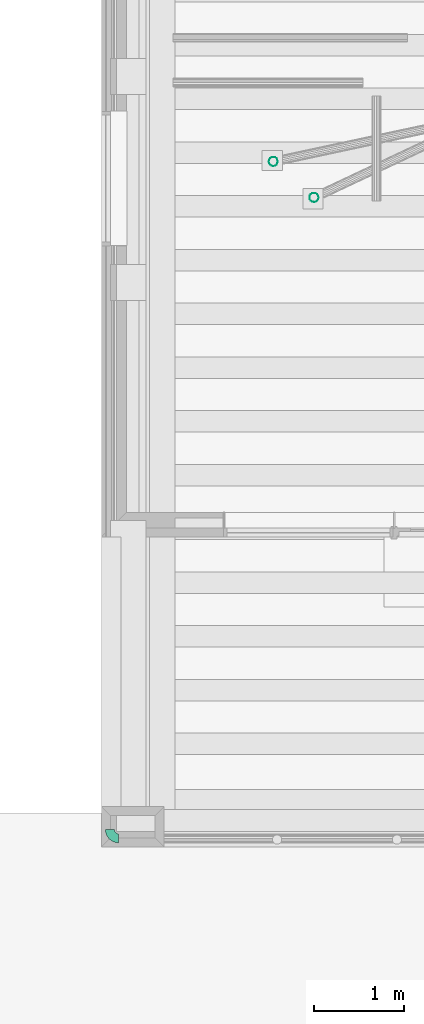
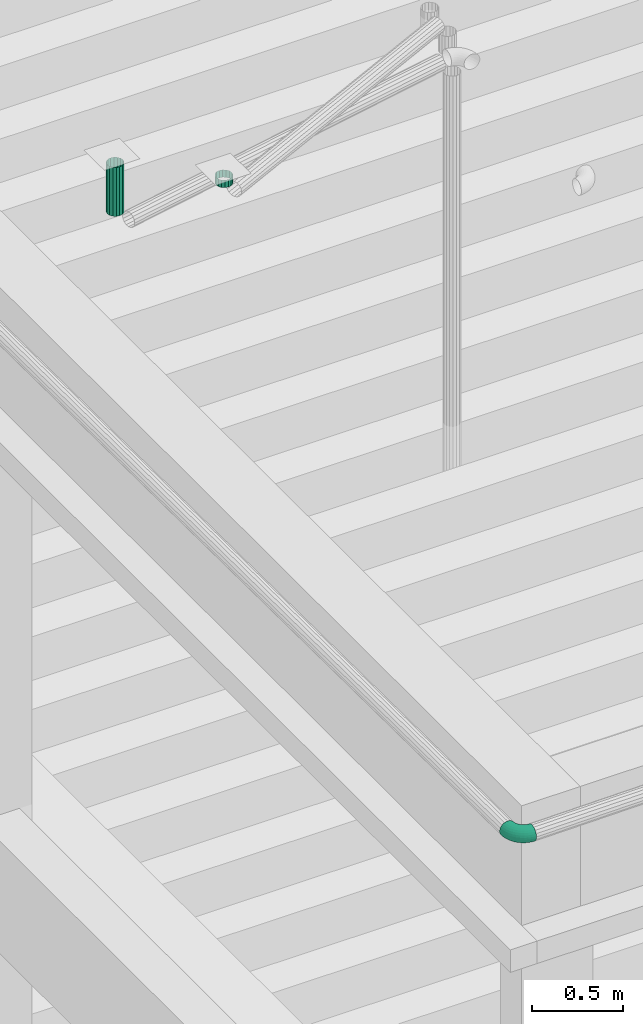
# One storey, part 70 of 106: 2 flow segments, 1 flow fitting.
"""IFC2X3 building model written with IfcOpenShell, lengths in metres."""

from ifc_helpers import new_model, entity, si_unit, converted_unit, derived_unit, money_unit, direction, frame, origin_with_axes, place, context, subcontext, project, spatial, open_shell, faceted_brep, surface_model, material, type_object, element, save


model = new_model("IFC2X3")

# Units and contexts
model_context = context("Model", 3, precision=1e-05, world=origin_with_axes(), true_north=direction((0.0, 1.0)))
body_context = subcontext(model_context, "Body", "Model", "MODEL_VIEW", scale=1.0)
ifc_project = project(units=[si_unit("LENGTHUNIT", "METRE"), si_unit("AREAUNIT", "SQUARE_METRE"), si_unit("VOLUMEUNIT", "CUBIC_METRE"), si_unit("ABSORBEDDOSEUNIT", "GRAY"), si_unit("AMOUNTOFSUBSTANCEUNIT", "MOLE"), si_unit("DOSEEQUIVALENTUNIT", "SIEVERT"), si_unit("ELECTRICCAPACITANCEUNIT", "FARAD"), si_unit("ELECTRICCHARGEUNIT", "COULOMB"), si_unit("ELECTRICCONDUCTANCEUNIT", "SIEMENS"), si_unit("ELECTRICCURRENTUNIT", "AMPERE"), si_unit("ELECTRICRESISTANCEUNIT", "OHM"), si_unit("ELECTRICVOLTAGEUNIT", "VOLT"), si_unit("ENERGYUNIT", "JOULE"), si_unit("FORCEUNIT", "NEWTON"), si_unit("FREQUENCYUNIT", "HERTZ"), si_unit("ILLUMINANCEUNIT", "LUX"), si_unit("INDUCTANCEUNIT", "HENRY"), si_unit("LUMINOUSFLUXUNIT", "LUMEN"), si_unit("LUMINOUSINTENSITYUNIT", "CANDELA"), si_unit("MAGNETICFLUXDENSITYUNIT", "TESLA"), si_unit("MAGNETICFLUXUNIT", "WEBER"), si_unit("MASSUNIT", "GRAM"), converted_unit("PLANEANGLEUNIT", "degree", entity("IfcReal", 0.0174532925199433), si_unit("PLANEANGLEUNIT", "RADIAN"), dimensions=[0, 0, 0, 0, 0, 0, 0]), si_unit("POWERUNIT", "WATT"), si_unit("PRESSUREUNIT", "PASCAL"), si_unit("RADIOACTIVITYUNIT", "BECQUEREL"), si_unit("SOLIDANGLEUNIT", "STERADIAN"), si_unit("THERMODYNAMICTEMPERATUREUNIT", "KELVIN"), si_unit("TIMEUNIT", "SECOND"), derived_unit("ACCELERATIONUNIT", [(si_unit("LENGTHUNIT", "METRE"), 1), (si_unit("TIMEUNIT", "SECOND"), -2)]), derived_unit("ANGULARVELOCITYUNIT", [(converted_unit("PLANEANGLEUNIT", "degree", entity("IfcReal", 0.0174532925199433), si_unit("PLANEANGLEUNIT", "RADIAN"), dimensions=[0, 0, 0, 0, 0, 0, 0]), 1), (si_unit("TIMEUNIT", "SECOND"), -1)]), derived_unit("CURVATUREUNIT", [(converted_unit("PLANEANGLEUNIT", "degree", entity("IfcReal", 0.0174532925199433), si_unit("PLANEANGLEUNIT", "RADIAN"), dimensions=[0, 0, 0, 0, 0, 0, 0]), 1), (si_unit("LENGTHUNIT", "METRE"), -1)]), derived_unit("DYNAMICVISCOSITYUNIT", [(si_unit("PRESSUREUNIT", "PASCAL"), 1), (si_unit("TIMEUNIT", "SECOND"), 1)]), derived_unit("HEATFLUXDENSITYUNIT", [(si_unit("POWERUNIT", "WATT"), 1), (si_unit("LENGTHUNIT", "METRE"), -2)]), derived_unit("HEATINGVALUEUNIT", [(si_unit("ENERGYUNIT", "JOULE"), 1), (si_unit("MASSUNIT", "GRAM"), -1)]), derived_unit("INTEGERCOUNTRATEUNIT", [(si_unit("TIMEUNIT", "SECOND"), -1)]), derived_unit("IONCONCENTRATIONUNIT", [(si_unit("MASSUNIT", "GRAM"), 1), (si_unit("VOLUMEUNIT", "CUBIC_METRE"), -1)]), derived_unit("ISOTHERMALMOISTURECAPACITYUNIT", [(si_unit("VOLUMEUNIT", "CUBIC_METRE"), 1), (si_unit("MASSUNIT", "GRAM"), -1)]), derived_unit("KINEMATICVISCOSITYUNIT", [(si_unit("AREAUNIT", "SQUARE_METRE"), 1), (si_unit("TIMEUNIT", "SECOND"), -1)]), derived_unit("LINEARFORCEUNIT", [(si_unit("FORCEUNIT", "NEWTON"), 1), (si_unit("LENGTHUNIT", "METRE"), -1)]), derived_unit("LINEARMOMENTUNIT", [(si_unit("FORCEUNIT", "NEWTON"), 1), (si_unit("LENGTHUNIT", "METRE"), -1)]), derived_unit("LINEARSTIFFNESSUNIT", [(si_unit("FORCEUNIT", "NEWTON"), 1), (si_unit("LENGTHUNIT", "METRE"), -1)]), derived_unit("LINEARVELOCITYUNIT", [(si_unit("LENGTHUNIT", "METRE"), 1), (si_unit("TIMEUNIT", "SECOND"), -1)]), derived_unit("LUMINOUSINTENSITYDISTRIBUTIONUNIT", [(si_unit("LUMINOUSINTENSITYUNIT", "CANDELA"), 1), (si_unit("LUMINOUSFLUXUNIT", "LUMEN"), -1)]), derived_unit("MASSDENSITYUNIT", [(si_unit("MASSUNIT", "GRAM"), 1), (si_unit("VOLUMEUNIT", "CUBIC_METRE"), -1)]), derived_unit("MASSFLOWRATEUNIT", [(si_unit("MASSUNIT", "GRAM"), 1), (si_unit("TIMEUNIT", "SECOND"), -1)]), derived_unit("MASSPERLENGTHUNIT", [(si_unit("MASSUNIT", "GRAM"), 1), (si_unit("LENGTHUNIT", "METRE"), -1)]), derived_unit("MODULUSOFELASTICITYUNIT", [(si_unit("FORCEUNIT", "NEWTON"), 1), (si_unit("AREAUNIT", "SQUARE_METRE"), -1)]), derived_unit("MODULUSOFLINEARSUBGRADEREACTIONUNIT", [(si_unit("FORCEUNIT", "NEWTON"), 1), (si_unit("LENGTHUNIT", "METRE"), -2)]), derived_unit("MODULUSOFROTATIONALSUBGRADEREACTIONUNIT", [(si_unit("FORCEUNIT", "NEWTON"), 1), (si_unit("LENGTHUNIT", "METRE"), 1)]), derived_unit("MODULUSOFSUBGRADEREACTIONUNIT", [(si_unit("FORCEUNIT", "NEWTON"), 1), (si_unit("VOLUMEUNIT", "CUBIC_METRE"), -1)]), derived_unit("MOISTUREDIFFUSIVITYUNIT", [(si_unit("VOLUMEUNIT", "CUBIC_METRE"), 1), (si_unit("TIMEUNIT", "SECOND"), -1)]), derived_unit("MOLECULARWEIGHTUNIT", [(si_unit("MASSUNIT", "GRAM"), 1), (si_unit("AMOUNTOFSUBSTANCEUNIT", "MOLE"), -1)]), derived_unit("PLANARFORCEUNIT", [(si_unit("FORCEUNIT", "NEWTON"), 1), (si_unit("LENGTHUNIT", "METRE"), -2)]), derived_unit("ROTATIONALFREQUENCYUNIT", [(si_unit("TIMEUNIT", "SECOND"), -1)]), derived_unit("ROTATIONALMASSUNIT", [(si_unit("MASSUNIT", "GRAM"), 1), (si_unit("LENGTHUNIT", "METRE"), 2)]), derived_unit("ROTATIONALSTIFFNESSUNIT", [(si_unit("FORCEUNIT", "NEWTON"), 1), (si_unit("LENGTHUNIT", "METRE"), 1), (converted_unit("PLANEANGLEUNIT", "degree", entity("IfcReal", 0.0174532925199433), si_unit("PLANEANGLEUNIT", "RADIAN"), dimensions=[0, 0, 0, 0, 0, 0, 0]), -1)]), derived_unit("SECTIONAREAINTEGRALUNIT", [(si_unit("LENGTHUNIT", "METRE"), 5)]), derived_unit("SECTIONMODULUSUNIT", [(si_unit("LENGTHUNIT", "METRE"), 3)]), derived_unit("SHEARMODULUSUNIT", [(si_unit("FORCEUNIT", "NEWTON"), 1), (si_unit("AREAUNIT", "SQUARE_METRE"), -1)]), derived_unit("SOUNDPOWERUNIT", [(si_unit("ENERGYUNIT", "JOULE"), 1), (si_unit("TIMEUNIT", "SECOND"), -1)]), derived_unit("SPECIFICHEATCAPACITYUNIT", [(si_unit("FORCEUNIT", "NEWTON"), 1), (si_unit("MASSUNIT", "GRAM"), -1), (si_unit("THERMODYNAMICTEMPERATUREUNIT", "KELVIN"), -1)]), derived_unit("TEMPERATUREGRADIENTUNIT", [(si_unit("THERMODYNAMICTEMPERATUREUNIT", "KELVIN"), 1), (si_unit("LENGTHUNIT", "METRE"), -1)]), derived_unit("THERMALADMITTANCEUNIT", [(si_unit("POWERUNIT", "WATT"), 1), (si_unit("AREAUNIT", "SQUARE_METRE"), -1), (si_unit("THERMODYNAMICTEMPERATUREUNIT", "KELVIN"), -1)]), derived_unit("THERMALCONDUCTANCEUNIT", [(si_unit("POWERUNIT", "WATT"), 1), (si_unit("LENGTHUNIT", "METRE"), -1), (si_unit("THERMODYNAMICTEMPERATUREUNIT", "KELVIN"), -1)]), derived_unit("THERMALEXPANSIONCOEFFICIENTUNIT", [(si_unit("THERMODYNAMICTEMPERATUREUNIT", "KELVIN"), -1)]), derived_unit("THERMALRESISTANCEUNIT", [(si_unit("AREAUNIT", "SQUARE_METRE"), 1), (si_unit("POWERUNIT", "WATT"), -1)]), derived_unit("THERMALTRANSMITTANCEUNIT", [(si_unit("POWERUNIT", "WATT"), 1), (si_unit("AREAUNIT", "SQUARE_METRE"), -1), (si_unit("THERMODYNAMICTEMPERATUREUNIT", "KELVIN"), -1)]), derived_unit("TORQUEUNIT", [(si_unit("FORCEUNIT", "NEWTON"), 1), (si_unit("LENGTHUNIT", "METRE"), 1)]), derived_unit("VAPORPERMEABILITYUNIT", [(si_unit("MASSUNIT", "GRAM"), 1), (si_unit("TIMEUNIT", "SECOND"), -1)]), derived_unit("VOLUMETRICFLOWRATEUNIT", [(si_unit("VOLUMEUNIT", "CUBIC_METRE"), 1), (si_unit("TIMEUNIT", "SECOND"), -1)]), derived_unit("WARPINGCONSTANTUNIT", [(si_unit("LENGTHUNIT", "METRE"), 6)]), derived_unit("WARPINGMOMENTUNIT", [(si_unit("FORCEUNIT", "NEWTON"), 1), (si_unit("LENGTHUNIT", "METRE"), 2)]), money_unit("GBP")], contexts=[model_context])

# Site, building, storey
site_placement = place(None, origin_with_axes())
site = spatial("IfcSite", under=ifc_project, at=site_placement, Name="Site", CompositionType="ELEMENT")
building_placement = place(site_placement, origin_with_axes())
building = spatial("IfcBuilding", under=site, at=building_placement, Name="Building01", CompositionType="ELEMENT")
storey_placement = place(building_placement, origin_with_axes())
storey = spatial("IfcBuildingStorey", under=building, at=storey_placement, Name="GF", CompositionType="ELEMENT", Elevation=0.0)

# Flow segments
ifc_material = material(Name="M_BSUK_ColdWater")
pipe_segment_type = type_object("IfcPipeSegmentType", Name="M-BmpStraightpipe-DefaultPipe", PredefinedType="RIGIDSEGMENT")
flow_segment_1_placement = place(storey_placement, frame((2.375111, 7.248528, 14.930087), z_axis=(1.0, 0.0, 0.0), x_axis=(0.0, 0.0, -1.0)))
element("IfcFlowSegment", 1, at=flow_segment_1_placement, inside=storey, type_object=pipe_segment_type, material=ifc_material, Name="M-BmpStraightpipe-DefaultPipe", ObjectType="M-BmpStraightpipe-DefaultPipe", context=body_context, shape_type="Brep", body=[
    faceted_brep([(0.05, 0.0, -0.05), (0.0, 0.0, -0.05), (0.0, 0.019134, -0.046194), (0.05, 0.019134, -0.046194), (0.0, 0.035355, -0.035355), (0.05, 0.035355, -0.035355), (0.0, 0.046194, -0.019134), (0.05, 0.046194, -0.019134), (0.0, 0.05, 0.0), (0.05, 0.05, 0.0), (0.0, 0.046194, 0.019134), (0.05, 0.046194, 0.019134), (0.0, 0.035355, 0.035355), (0.05, 0.035355, 0.035355), (0.0, 0.019134, 0.046194), (0.05, 0.019134, 0.046194), (0.0, 0.0, 0.05), (0.05, 0.0, 0.05), (0.0, -0.019134, 0.046194), (0.05, -0.019134, 0.046194), (0.0, -0.035355, 0.035355), (0.05, -0.035355, 0.035355), (0.0, -0.046194, 0.019134), (0.05, -0.046194, 0.019134), (0.0, -0.05, 0.0), (0.05, -0.05, 0.0), (0.0, -0.046194, -0.019134), (0.05, -0.046194, -0.019134), (0.0, -0.035355, -0.035355), (0.05, -0.035355, -0.035355), (0.0, -0.019134, -0.046194), (0.05, -0.019134, -0.046194)], [[[0, 1, 2, 3]], [[3, 2, 4, 5]], [[5, 4, 6, 7]], [[7, 6, 8, 9]], [[9, 8, 10, 11]], [[11, 10, 12, 13]], [[13, 12, 14, 15]], [[15, 14, 16, 17]], [[17, 16, 18, 19]], [[19, 18, 20, 21]], [[21, 20, 22, 23]], [[23, 22, 24, 25]], [[25, 24, 26, 27]], [[27, 26, 28, 29]], [[29, 28, 30, 31]], [[31, 30, 1, 0]]]),
])
flow_segment_2_placement = place(storey_placement, frame((1.92, 7.65, 14.93), z_axis=(1.0, 0.0, 0.0), x_axis=(0.0, 0.0, -1.0)))
element("IfcFlowSegment", 2, at=flow_segment_2_placement, inside=storey, type_object=pipe_segment_type, material=ifc_material, Name="M-BmpStraightpipe-DefaultPipe", ObjectType="M-BmpStraightpipe-DefaultPipe", context=body_context, shape_type="Brep", body=[
    faceted_brep([(0.326115, 0.0, -0.05), (0.0, 0.0, -0.05), (0.0, 0.019134, -0.046194), (0.326115, 0.019134, -0.046194), (0.0, 0.035355, -0.035355), (0.326115, 0.035355, -0.035355), (0.0, 0.046194, -0.019134), (0.326115, 0.046194, -0.019134), (0.0, 0.05, 0.0), (0.326115, 0.05, 0.0), (0.0, 0.046194, 0.019134), (0.326115, 0.046194, 0.019134), (0.0, 0.035355, 0.035355), (0.326115, 0.035355, 0.035355), (0.0, 0.019134, 0.046194), (0.326115, 0.019134, 0.046194), (0.0, 0.0, 0.05), (0.326115, 0.0, 0.05), (0.0, -0.019134, 0.046194), (0.326115, -0.019134, 0.046194), (0.0, -0.035355, 0.035355), (0.326115, -0.035355, 0.035355), (0.0, -0.046194, 0.019134), (0.326115, -0.046194, 0.019134), (0.0, -0.05, 0.0), (0.326115, -0.05, 0.0), (0.0, -0.046194, -0.019134), (0.326115, -0.046194, -0.019134), (0.0, -0.035355, -0.035355), (0.326115, -0.035355, -0.035355), (0.0, -0.019134, -0.046194), (0.326115, -0.019134, -0.046194)], [[[0, 1, 2, 3]], [[3, 2, 4, 5]], [[5, 4, 6, 7]], [[7, 6, 8, 9]], [[9, 8, 10, 11]], [[11, 10, 12, 13]], [[13, 12, 14, 15]], [[15, 14, 16, 17]], [[17, 16, 18, 19]], [[19, 18, 20, 21]], [[21, 20, 22, 23]], [[23, 22, 24, 25]], [[25, 24, 26, 27]], [[27, 26, 28, 29]], [[29, 28, 30, 31]], [[31, 30, 1, 0]]]),
])

# Flow fitting
pipe_fitting_type = type_object("IfcPipeFittingType", Name="M-BmpElbow-DefaultElbow", PredefinedType="BEND")
flow_fitting_placement = place(storey_placement, frame((0.095, 0.19497, 15.640002), z_axis=(-1.0, 0.0, 0.0), x_axis=(0.0, -1.0, 0.0)))
element("IfcFlowFitting", 3, at=flow_fitting_placement, inside=storey, type_object=pipe_fitting_type, material=ifc_material, Name="M-BmpElbow-DefaultElbow", ObjectType="M-BmpElbow-DefaultElbow", context=body_context, shape_type="SurfaceModel", body=[
    surface_model("IfcShellBasedSurfaceModel", [(0.008009, -0.01349, -0.048768), (0.0, -0.01349, -0.048146), (0.0, 0.0, -0.05), (0.007723, 0.0, -0.0506), (0.015826, -0.01349, -0.05062), (0.015261, 0.0, -0.052386), (0.023264, -0.01349, -0.053657), (0.022432, 0.0, -0.055314), (0.030143, -0.01349, -0.057807), (0.029065, 0.0, -0.059315), (0.036298, -0.01349, -0.062969), (0.035, 0.0, -0.064293), (0.041582, -0.01349, -0.06902), (0.040095, 0.0, -0.070127), (0.045868, -0.01349, -0.075814), (0.044228, 0.0, -0.076679), (0.049054, -0.01349, -0.083189), (0.0473, 0.0, -0.08379), (0.051061, -0.01349, -0.090968), (0.049236, 0.0, -0.091291), (0.051844, -0.01349, -0.098963), (0.04999, 0.0, -0.099), (0.008847, -0.025979, -0.043408), (0.0, -0.025979, -0.042721), (0.017482, -0.025979, -0.045454), (0.025697, -0.025979, -0.048809), (0.033296, -0.025979, -0.053392), (0.040095, -0.025979, -0.059095), (0.045932, -0.025979, -0.065779), (0.050667, -0.025979, -0.073284), (0.054185, -0.025979, -0.081431), (0.056403, -0.025979, -0.090023), (0.057268, -0.025979, -0.098855), (0.010175, -0.036542, -0.034918), (0.0, -0.036542, -0.034128), (0.020105, -0.036542, -0.037271), (0.029553, -0.036542, -0.041129), (0.038291, -0.036542, -0.0464), (0.046111, -0.036542, -0.052958), (0.052823, -0.036542, -0.060645), (0.058268, -0.036542, -0.069276), (0.062315, -0.036542, -0.078645), (0.064865, -0.036542, -0.088526), (0.065859, -0.036542, -0.098683), (0.011893, -0.044394, -0.023927), (0.0, -0.044394, -0.023003), (0.0235, -0.044394, -0.026677), (0.034544, -0.044394, -0.031187), (0.044758, -0.044394, -0.037348), (0.053898, -0.044394, -0.045013), (0.061744, -0.044394, -0.053998), (0.068109, -0.044394, -0.064087), (0.072838, -0.044394, -0.075038), (0.07582, -0.044394, -0.086588), (0.076981, -0.044394, -0.09846), (0.013875, -0.048954, -0.011251), (0.0, -0.048954, -0.010173), (0.027416, -0.048954, -0.014459), (0.0403, -0.048954, -0.01972), (0.052216, -0.048954, -0.026908), (0.062879, -0.048954, -0.035851), (0.072033, -0.048954, -0.046333), (0.079458, -0.048954, -0.058103), (0.084976, -0.048954, -0.070879), (0.088454, -0.048954, -0.084353), (0.089809, -0.048954, -0.098204), (0.015973, -0.049883, 0.002171), (0.0, -0.049883, 0.003412), (0.031562, -0.049883, -0.001522), (0.046394, -0.049883, -0.007579), (0.060113, -0.049883, -0.015854), (0.072389, -0.049883, -0.026149), (0.082927, -0.049883, -0.038216), (0.091475, -0.049883, -0.051767), (0.097827, -0.049883, -0.066475), (0.101831, -0.049883, -0.081987), (0.103391, -0.049883, -0.097932), (0.018032, -0.047113, 0.015343), (0.0, -0.047113, 0.016744), (0.035632, -0.047113, 0.011174), (0.052376, -0.047113, 0.004336), (0.067863, -0.047113, -0.005006), (0.081721, -0.047113, -0.016628), (0.093618, -0.047113, -0.030251), (0.103268, -0.047113, -0.045548), (0.110439, -0.047113, -0.062153), (0.114959, -0.047113, -0.079665), (0.116721, -0.047113, -0.097665), (0.0199, -0.040848, 0.027288), (0.0, -0.040848, 0.028834), (0.039322, -0.040848, 0.022687), (0.0578, -0.040848, 0.015141), (0.074891, -0.040848, 0.004831), (0.090184, -0.040848, -0.007994), (0.103313, -0.040848, -0.023028), (0.113962, -0.040848, -0.039909), (0.121876, -0.040848, -0.058233), (0.126865, -0.040848, -0.077559), (0.128808, -0.040848, -0.097424), (0.021437, -0.031554, 0.03712), (0.0, -0.031554, 0.038786), (0.042359, -0.031554, 0.032163), (0.062264, -0.031554, 0.024035), (0.080675, -0.031554, 0.012929), (0.09715, -0.031554, -0.000887), (0.111293, -0.031554, -0.017083), (0.122765, -0.031554, -0.035268), (0.13129, -0.031554, -0.055007), (0.136664, -0.031554, -0.075826), (0.138758, -0.031554, -0.097225), (0.022529, -0.01992, 0.04411), (0.0, -0.01992, 0.045861), (0.044518, -0.01992, 0.038901), (0.065438, -0.01992, 0.030358), (0.084788, -0.01992, 0.018686), (0.102103, -0.01992, 0.004165), (0.116966, -0.01992, -0.012856), (0.129023, -0.01992, -0.031968), (0.137983, -0.01992, -0.052713), (0.143631, -0.01992, -0.074593), (0.145831, -0.01992, -0.097083), (0.023097, -0.006808, 0.04774), (0.0, -0.006808, 0.049534), (0.045639, -0.006808, 0.042399), (0.067087, -0.006808, 0.033641), (0.086924, -0.006808, 0.021675), (0.104674, -0.006808, 0.006789), (0.119912, -0.006808, -0.010661), (0.132273, -0.006808, -0.030254), (0.141458, -0.006808, -0.051522), (0.147248, -0.006808, -0.073953), (0.149504, -0.006808, -0.09701), (0.023097, 0.006808, 0.04774), (0.0, 0.006808, 0.049534), (0.045639, 0.006808, 0.042399), (0.067087, 0.006808, 0.033641), (0.086924, 0.006808, 0.021675), (0.104674, 0.006808, 0.006789), (0.119912, 0.006808, -0.010661), (0.132273, 0.006808, -0.030254), (0.141458, 0.006808, -0.051522), (0.147248, 0.006808, -0.073953), (0.149504, 0.006808, -0.09701), (0.022529, 0.01992, 0.04411), (0.0, 0.01992, 0.045861), (0.044518, 0.01992, 0.038901), (0.065438, 0.01992, 0.030358), (0.084788, 0.01992, 0.018686), (0.102103, 0.01992, 0.004165), (0.116966, 0.01992, -0.012856), (0.129023, 0.01992, -0.031968), (0.137983, 0.01992, -0.052713), (0.143631, 0.01992, -0.074593), (0.145831, 0.01992, -0.097083), (0.021437, 0.031554, 0.03712), (0.0, 0.031554, 0.038786), (0.042359, 0.031554, 0.032163), (0.062264, 0.031554, 0.024035), (0.080675, 0.031554, 0.012929), (0.09715, 0.031554, -0.000887), (0.111293, 0.031554, -0.017083), (0.122765, 0.031554, -0.035268), (0.13129, 0.031554, -0.055007), (0.136664, 0.031554, -0.075826), (0.138758, 0.031554, -0.097225), (0.0199, 0.040848, 0.027288), (0.0, 0.040848, 0.028834), (0.039322, 0.040848, 0.022687), (0.0578, 0.040848, 0.015141), (0.074891, 0.040848, 0.004831), (0.090184, 0.040848, -0.007994), (0.103313, 0.040848, -0.023028), (0.113962, 0.040848, -0.039909), (0.121876, 0.040848, -0.058233), (0.126865, 0.040848, -0.077559), (0.128808, 0.040848, -0.097424), (0.018032, 0.047113, 0.015343), (0.0, 0.047113, 0.016744), (0.035632, 0.047113, 0.011174), (0.052376, 0.047113, 0.004336), (0.067863, 0.047113, -0.005006), (0.081721, 0.047113, -0.016628), (0.093618, 0.047113, -0.030251), (0.103268, 0.047113, -0.045548), (0.110439, 0.047113, -0.062153), (0.114959, 0.047113, -0.079665), (0.116721, 0.047113, -0.097665), (0.015973, 0.049883, 0.002171), (0.0, 0.049883, 0.003412), (0.031562, 0.049883, -0.001522), (0.046394, 0.049883, -0.007579), (0.060113, 0.049883, -0.015854), (0.072389, 0.049883, -0.026149), (0.082927, 0.049883, -0.038216), (0.091475, 0.049883, -0.051767), (0.097827, 0.049883, -0.066475), (0.101831, 0.049883, -0.081987), (0.103391, 0.049883, -0.097932), (0.013875, 0.048954, -0.011251), (0.0, 0.048954, -0.010173), (0.027416, 0.048954, -0.014459), (0.0403, 0.048954, -0.01972), (0.052216, 0.048954, -0.026908), (0.062879, 0.048954, -0.035851), (0.072033, 0.048954, -0.046333), (0.079458, 0.048954, -0.058103), (0.084976, 0.048954, -0.070879), (0.088454, 0.048954, -0.084353), (0.089809, 0.048954, -0.098204), (0.011893, 0.044394, -0.023927), (0.0, 0.044394, -0.023003), (0.0235, 0.044394, -0.026677), (0.034544, 0.044394, -0.031187), (0.044758, 0.044394, -0.037348), (0.053898, 0.044394, -0.045013), (0.061744, 0.044394, -0.053998), (0.068109, 0.044394, -0.064087), (0.072838, 0.044394, -0.075038), (0.07582, 0.044394, -0.086588), (0.076981, 0.044394, -0.09846), (0.010175, 0.036542, -0.034918), (0.0, 0.036542, -0.034128), (0.020105, 0.036542, -0.037271), (0.029553, 0.036542, -0.041129), (0.038291, 0.036542, -0.0464), (0.046111, 0.036542, -0.052958), (0.052823, 0.036542, -0.060645), (0.058268, 0.036542, -0.069276), (0.062315, 0.036542, -0.078645), (0.064865, 0.036542, -0.088526), (0.065859, 0.036542, -0.098683), (0.008847, 0.025979, -0.043408), (0.0, 0.025979, -0.042721), (0.017482, 0.025979, -0.045454), (0.025697, 0.025979, -0.048809), (0.033296, 0.025979, -0.053392), (0.040095, 0.025979, -0.059095), (0.045932, 0.025979, -0.065779), (0.050667, 0.025979, -0.073284), (0.054185, 0.025979, -0.081431), (0.056403, 0.025979, -0.090023), (0.057268, 0.025979, -0.098855), (0.008009, 0.01349, -0.048768), (0.0, 0.01349, -0.048146), (0.015826, 0.01349, -0.05062), (0.023264, 0.01349, -0.053657), (0.030143, 0.01349, -0.057807), (0.036298, 0.01349, -0.062969), (0.041582, 0.01349, -0.06902), (0.045868, 0.01349, -0.075814), (0.049054, 0.01349, -0.083189), (0.051061, 0.01349, -0.090968), (0.051844, 0.01349, -0.098963)], [open_shell([[[0, 1, 2, 3]], [[4, 0, 3, 5]], [[6, 4, 5, 7]], [[8, 6, 7, 9]], [[10, 8, 9, 11]], [[12, 10, 11, 13]], [[14, 12, 13, 15]], [[16, 14, 15, 17]], [[18, 16, 17, 19]], [[20, 18, 19, 21]], [[22, 23, 1, 0]], [[24, 22, 0, 4]], [[25, 24, 4, 6]], [[26, 25, 6, 8]], [[27, 26, 8, 10]], [[28, 27, 10, 12]], [[29, 28, 12, 14]], [[30, 29, 14, 16]], [[31, 30, 16, 18]], [[32, 31, 18, 20]], [[33, 34, 23, 22]], [[35, 33, 22, 24]], [[36, 35, 24, 25]], [[37, 36, 25, 26]], [[38, 37, 26, 27]], [[39, 38, 27, 28]], [[40, 39, 28, 29]], [[41, 40, 29, 30]], [[42, 41, 30, 31]], [[43, 42, 31, 32]], [[44, 45, 34, 33]], [[46, 44, 33, 35]], [[47, 46, 35, 36]], [[48, 47, 36, 37]], [[49, 48, 37, 38]], [[50, 49, 38, 39]], [[51, 50, 39, 40]], [[52, 51, 40, 41]], [[53, 52, 41, 42]], [[54, 53, 42, 43]], [[55, 56, 45, 44]], [[57, 55, 44, 46]], [[58, 57, 46, 47]], [[59, 58, 47, 48]], [[60, 59, 48, 49]], [[61, 60, 49, 50]], [[62, 61, 50, 51]], [[63, 62, 51, 52]], [[64, 63, 52, 53]], [[65, 64, 53, 54]], [[66, 67, 56, 55]], [[68, 66, 55, 57]], [[69, 68, 57, 58]], [[70, 69, 58, 59]], [[71, 70, 59, 60]], [[72, 71, 60, 61]], [[73, 72, 61, 62]], [[74, 73, 62, 63]], [[75, 74, 63, 64]], [[76, 75, 64, 65]], [[77, 78, 67, 66]], [[79, 77, 66, 68]], [[80, 79, 68, 69]], [[81, 80, 69, 70]], [[82, 81, 70, 71]], [[83, 82, 71, 72]], [[84, 83, 72, 73]], [[85, 84, 73, 74]], [[86, 85, 74, 75]], [[87, 86, 75, 76]], [[88, 89, 78, 77]], [[90, 88, 77, 79]], [[91, 90, 79, 80]], [[92, 91, 80, 81]], [[93, 92, 81, 82]], [[94, 93, 82, 83]], [[95, 94, 83, 84]], [[96, 95, 84, 85]], [[97, 96, 85, 86]], [[98, 97, 86, 87]], [[99, 100, 89, 88]], [[101, 99, 88, 90]], [[102, 101, 90, 91]], [[103, 102, 91, 92]], [[104, 103, 92, 93]], [[105, 104, 93, 94]], [[106, 105, 94, 95]], [[107, 106, 95, 96]], [[108, 107, 96, 97]], [[109, 108, 97, 98]], [[110, 111, 100, 99]], [[112, 110, 99, 101]], [[113, 112, 101, 102]], [[114, 113, 102, 103]], [[115, 114, 103, 104]], [[116, 115, 104, 105]], [[117, 116, 105, 106]], [[118, 117, 106, 107]], [[119, 118, 107, 108]], [[120, 119, 108, 109]], [[121, 122, 111, 110]], [[123, 121, 110, 112]], [[124, 123, 112, 113]], [[125, 124, 113, 114]], [[126, 125, 114, 115]], [[127, 126, 115, 116]], [[128, 127, 116, 117]], [[129, 128, 117, 118]], [[130, 129, 118, 119]], [[131, 130, 119, 120]], [[132, 133, 122, 121]], [[134, 132, 121, 123]], [[135, 134, 123, 124]], [[136, 135, 124, 125]], [[137, 136, 125, 126]], [[138, 137, 126, 127]], [[139, 138, 127, 128]], [[140, 139, 128, 129]], [[141, 140, 129, 130]], [[142, 141, 130, 131]], [[143, 144, 133, 132]], [[145, 143, 132, 134]], [[146, 145, 134, 135]], [[147, 146, 135, 136]], [[148, 147, 136, 137]], [[149, 148, 137, 138]], [[150, 149, 138, 139]], [[151, 150, 139, 140]], [[152, 151, 140, 141]], [[153, 152, 141, 142]], [[154, 155, 144, 143]], [[156, 154, 143, 145]], [[157, 156, 145, 146]], [[158, 157, 146, 147]], [[159, 158, 147, 148]], [[160, 159, 148, 149]], [[161, 160, 149, 150]], [[162, 161, 150, 151]], [[163, 162, 151, 152]], [[164, 163, 152, 153]], [[165, 166, 155, 154]], [[167, 165, 154, 156]], [[168, 167, 156, 157]], [[169, 168, 157, 158]], [[170, 169, 158, 159]], [[171, 170, 159, 160]], [[172, 171, 160, 161]], [[173, 172, 161, 162]], [[174, 173, 162, 163]], [[175, 174, 163, 164]], [[176, 177, 166, 165]], [[178, 176, 165, 167]], [[179, 178, 167, 168]], [[180, 179, 168, 169]], [[181, 180, 169, 170]], [[182, 181, 170, 171]], [[183, 182, 171, 172]], [[184, 183, 172, 173]], [[185, 184, 173, 174]], [[186, 185, 174, 175]], [[187, 188, 177, 176]], [[189, 187, 176, 178]], [[190, 189, 178, 179]], [[191, 190, 179, 180]], [[192, 191, 180, 181]], [[193, 192, 181, 182]], [[194, 193, 182, 183]], [[195, 194, 183, 184]], [[196, 195, 184, 185]], [[197, 196, 185, 186]], [[198, 199, 188, 187]], [[200, 198, 187, 189]], [[201, 200, 189, 190]], [[202, 201, 190, 191]], [[203, 202, 191, 192]], [[204, 203, 192, 193]], [[205, 204, 193, 194]], [[206, 205, 194, 195]], [[207, 206, 195, 196]], [[208, 207, 196, 197]], [[209, 210, 199, 198]], [[211, 209, 198, 200]], [[212, 211, 200, 201]], [[213, 212, 201, 202]], [[214, 213, 202, 203]], [[215, 214, 203, 204]], [[216, 215, 204, 205]], [[217, 216, 205, 206]], [[218, 217, 206, 207]], [[219, 218, 207, 208]], [[220, 221, 210, 209]], [[222, 220, 209, 211]], [[223, 222, 211, 212]], [[224, 223, 212, 213]], [[225, 224, 213, 214]], [[226, 225, 214, 215]], [[227, 226, 215, 216]], [[228, 227, 216, 217]], [[229, 228, 217, 218]], [[230, 229, 218, 219]], [[231, 232, 221, 220]], [[233, 231, 220, 222]], [[234, 233, 222, 223]], [[235, 234, 223, 224]], [[236, 235, 224, 225]], [[237, 236, 225, 226]], [[238, 237, 226, 227]], [[239, 238, 227, 228]], [[240, 239, 228, 229]], [[241, 240, 229, 230]], [[242, 243, 232, 231]], [[244, 242, 231, 233]], [[245, 244, 233, 234]], [[246, 245, 234, 235]], [[247, 246, 235, 236]], [[248, 247, 236, 237]], [[249, 248, 237, 238]], [[250, 249, 238, 239]], [[251, 250, 239, 240]], [[252, 251, 240, 241]], [[3, 2, 243, 242]], [[5, 3, 242, 244]], [[7, 5, 244, 245]], [[9, 7, 245, 246]], [[11, 9, 246, 247]], [[13, 11, 247, 248]], [[15, 13, 248, 249]], [[17, 15, 249, 250]], [[19, 17, 250, 251]], [[21, 19, 251, 252]]])]),
])

save(model, "model.ifc")
